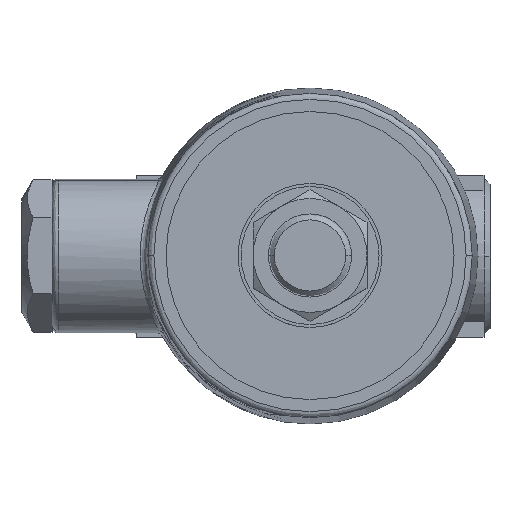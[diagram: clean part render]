
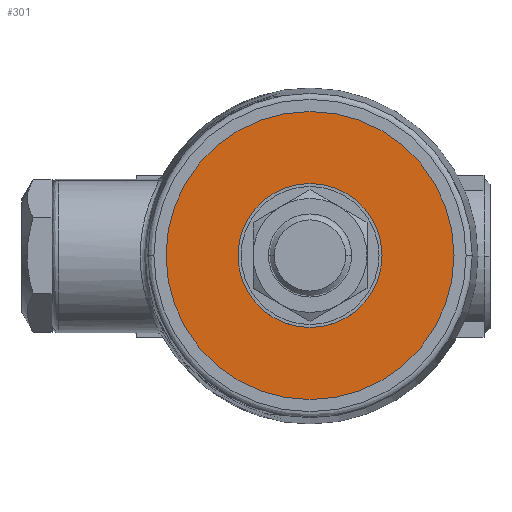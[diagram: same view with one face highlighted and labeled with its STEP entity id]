
A CAD part, top view. The second image highlights one B-rep face of the part: STEP entity #301.
In plain terms, the highlighted planar face has unit normal (0, 0, 1).
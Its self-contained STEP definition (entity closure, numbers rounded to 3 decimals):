
#301=ADVANCED_FACE('',(#1486,#1487),#1485,.F.);
#1485=PLANE('',#2746);
#1486=FACE_OUTER_BOUND('',#2747,.T.);
#1487=FACE_BOUND('',#2748,.T.);
#2743=CARTESIAN_POINT('',(55.2,-49.883,96.));
#2744=DIRECTION('',(0.,0.,-1.));
#2745=DIRECTION('',(-1.,0.,0.));
#2746=AXIS2_PLACEMENT_3D('',#2743,#2744,#2745);
#2747=EDGE_LOOP('',(#3412,#3413));
#2748=EDGE_LOOP('',(#3414,#3415));
#3412=ORIENTED_EDGE('',*,*,#3779,.F.);
#3413=ORIENTED_EDGE('',*,*,#3780,.F.);
#3414=ORIENTED_EDGE('',*,*,#3781,.T.);
#3415=ORIENTED_EDGE('',*,*,#3782,.T.);
#3779=EDGE_CURVE('',#5648,#5649,#5650,.T.);
#3780=EDGE_CURVE('',#5649,#5648,#5656,.T.);
#3781=EDGE_CURVE('',#5662,#5663,#5664,.T.);
#3782=EDGE_CURVE('',#5663,#5662,#5670,.T.);
#5648=VERTEX_POINT('',#7325);
#5649=VERTEX_POINT('',#7326);
#5650=CIRCLE('',#7330,24.);
#5656=CIRCLE('',#7334,24.);
#5662=VERTEX_POINT('',#7335);
#5663=VERTEX_POINT('',#7336);
#5664=CIRCLE('',#7340,12.);
#5670=CIRCLE('',#7344,12.);
#7325=CARTESIAN_POINT('',(24.,0.,96.));
#7326=CARTESIAN_POINT('',(-24.,0.,96.));
#7327=CARTESIAN_POINT('',(0.,0.,96.));
#7328=DIRECTION('',(0.,0.,-1.));
#7329=DIRECTION('',(-1.,0.,0.));
#7330=AXIS2_PLACEMENT_3D('',#7327,#7328,#7329);
#7331=CARTESIAN_POINT('',(0.,0.,96.));
#7332=DIRECTION('',(0.,0.,-1.));
#7333=DIRECTION('',(-1.,0.,0.));
#7334=AXIS2_PLACEMENT_3D('',#7331,#7332,#7333);
#7335=CARTESIAN_POINT('',(-12.,0.,96.));
#7336=CARTESIAN_POINT('',(12.,0.,96.));
#7337=CARTESIAN_POINT('',(0.,0.,96.));
#7338=DIRECTION('',(0.,0.,-1.));
#7339=DIRECTION('',(-1.,0.,0.));
#7340=AXIS2_PLACEMENT_3D('',#7337,#7338,#7339);
#7341=CARTESIAN_POINT('',(0.,0.,96.));
#7342=DIRECTION('',(0.,0.,-1.));
#7343=DIRECTION('',(-1.,0.,0.));
#7344=AXIS2_PLACEMENT_3D('',#7341,#7342,#7343);
